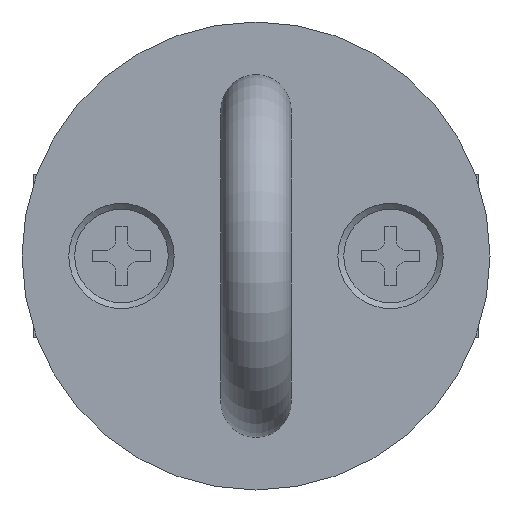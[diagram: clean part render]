
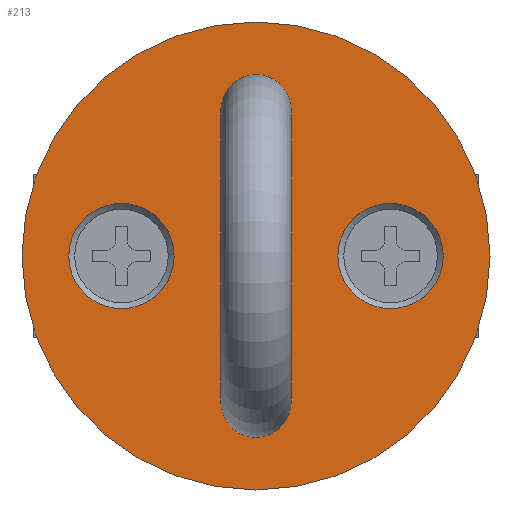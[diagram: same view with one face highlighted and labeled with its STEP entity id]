
A CAD part, front view. The second image highlights one B-rep face of the part: STEP entity #213.
In plain terms, the highlighted planar face has unit normal (0, -1, 0) as drawn and (0, 0, 1) by its records, which use the part's own axes.
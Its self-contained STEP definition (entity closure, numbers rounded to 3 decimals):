
#213=ADVANCED_FACE('',(#387,#388,#389,#390,#391),#392,.T.);
#387=FACE_BOUND('',#553,.T.);
#388=FACE_BOUND('',#554,.T.);
#389=FACE_BOUND('',#555,.T.);
#390=FACE_BOUND('',#556,.T.);
#391=FACE_OUTER_BOUND('',#557,.T.);
#392=PLANE('',#558);
#553=EDGE_LOOP('',(#845));
#554=EDGE_LOOP('',(#846));
#555=EDGE_LOOP('',(#847));
#556=EDGE_LOOP('',(#848));
#557=EDGE_LOOP('',(#849));
#558=AXIS2_PLACEMENT_3D('',#850,#851,#852);
#845=ORIENTED_EDGE('',*,*,#1092,.T.);
#846=ORIENTED_EDGE('',*,*,#1093,.T.);
#847=ORIENTED_EDGE('',*,*,#1023,.F.);
#848=ORIENTED_EDGE('',*,*,#1094,.F.);
#849=ORIENTED_EDGE('',*,*,#1073,.T.);
#850=CARTESIAN_POINT('',(20.0,20.0,7.5));
#851=DIRECTION('',(0.0,0.0,1.0));
#852=DIRECTION('',(1.0,0.0,0.0));
#1023=EDGE_CURVE('',#1193,#1193,#1194,.T.);
#1073=EDGE_CURVE('',#1267,#1267,#1268,.T.);
#1092=EDGE_CURVE('',#1292,#1292,#1293,.T.);
#1093=EDGE_CURVE('',#1294,#1294,#1295,.T.);
#1094=EDGE_CURVE('',#1296,#1296,#1297,.T.);
#1193=VERTEX_POINT('',#1431);
#1194=CIRCLE('',#1432,4.5);
#1267=VERTEX_POINT('',#1529);
#1268=CIRCLE('',#1530,20.0);
#1292=VERTEX_POINT('',#1561);
#1293=CIRCLE('',#1562,3.0);
#1294=VERTEX_POINT('',#1563);
#1295=CIRCLE('',#1564,3.0);
#1296=VERTEX_POINT('',#1565);
#1297=CIRCLE('',#1566,4.5);
#1431=CARTESIAN_POINT('',(20.0,13.0,7.5));
#1432=AXIS2_PLACEMENT_3D('',#1647,#1648,#1649);
#1529=CARTESIAN_POINT('',(40.0,20.0,7.5));
#1530=AXIS2_PLACEMENT_3D('',#1710,#1711,#1712);
#1561=CARTESIAN_POINT('',(29.5,20.0,7.5));
#1562=AXIS2_PLACEMENT_3D('',#1729,#1730,#1731);
#1563=CARTESIAN_POINT('',(4.5,20.0,7.5));
#1564=AXIS2_PLACEMENT_3D('',#1732,#1733,#1734);
#1565=CARTESIAN_POINT('',(20.0,36.0,7.5));
#1566=AXIS2_PLACEMENT_3D('',#1735,#1736,#1737);
#1647=CARTESIAN_POINT('',(20.0,8.5,7.5));
#1648=DIRECTION('',(0.0,0.,1.0));
#1649=DIRECTION('',(0.0,1.0,0.));
#1710=CARTESIAN_POINT('',(20.0,20.0,7.5));
#1711=DIRECTION('',(0.0,0.0,1.0));
#1712=DIRECTION('',(1.0,0.0,0.0));
#1729=CARTESIAN_POINT('',(32.5,20.0,7.5));
#1730=DIRECTION('',(0.0,0.0,-1.0));
#1731=DIRECTION('',(-1.0,0.0,0.0));
#1732=CARTESIAN_POINT('',(7.5,20.0,7.5));
#1733=DIRECTION('',(0.0,0.0,-1.0));
#1734=DIRECTION('',(-1.0,0.0,0.0));
#1735=CARTESIAN_POINT('',(20.0,31.5,7.5));
#1736=DIRECTION('',(0.0,0.,1.0));
#1737=DIRECTION('',(0.0,1.0,0.));
